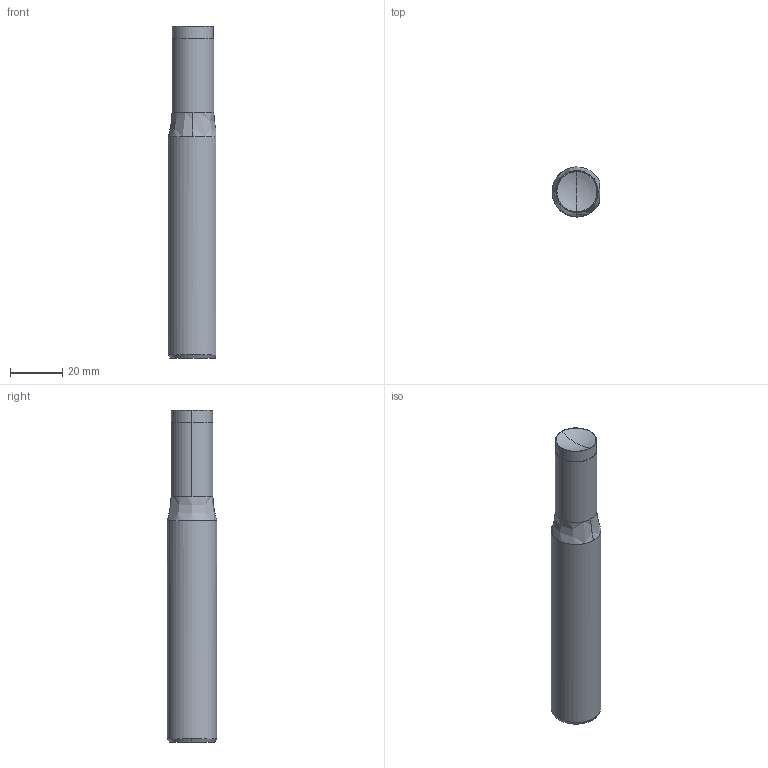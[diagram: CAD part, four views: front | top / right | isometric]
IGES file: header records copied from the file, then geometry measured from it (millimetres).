
Start section: SolidWorks IGES file using analytic representation for surfaces
Global section: file name: C:\Users\IanO\Desktop\SE0508_v2\SE0508_v2_20231218_IGES\SE0508.160-C.igs; native system: SolidWorks 2019; preprocessor: SolidWorks 2019; author: IanO; date: 231218.131419; units: millimetre
Bounding box: 18.32 x 19.05 x 127 mm (x, y, z)
Surface area: 7671.3 mm2 (no closed solid volume)
Topology: 0 solids, 0 shells, 15 faces, 244 edges, 244 vertices
Faces by surface type: revolution 9, bspline 6
